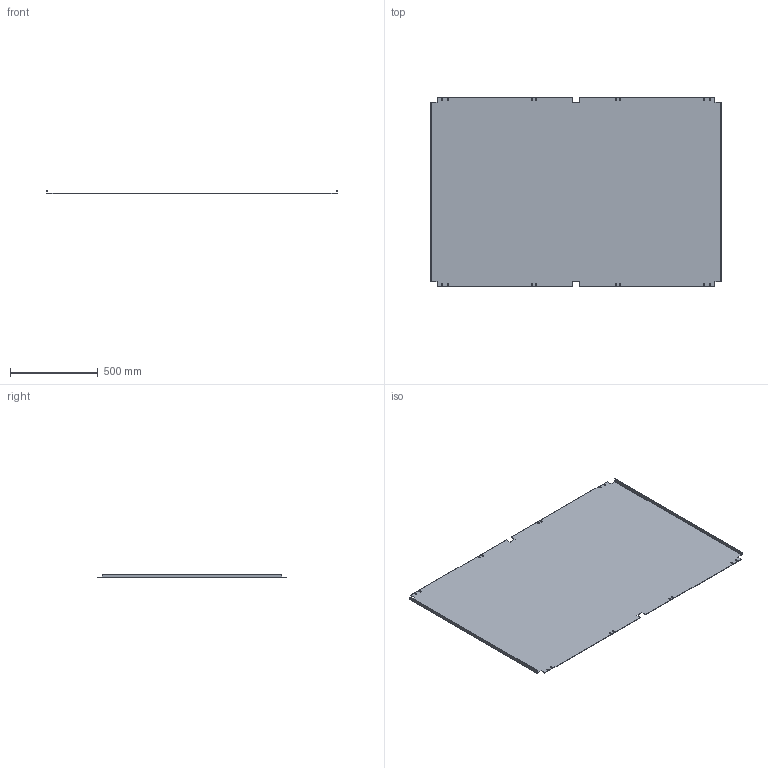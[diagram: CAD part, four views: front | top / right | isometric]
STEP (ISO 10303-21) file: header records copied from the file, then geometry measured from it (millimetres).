
FILE_DESCRIPTION(('Open CASCADE Model'),'2;1');
FILE_NAME('Open CASCADE Shape Model','2025-02-13T17:36:48',('Author'),( 'Open CASCADE'),'Open CASCADE STEP processor 7.8','Open CASCADE 7.8' ,'Unknown');
FILE_SCHEMA(('AUTOMOTIVE_DESIGN { 1 0 10303 214 1 1 1 1 }'));
Length unit declared in the file: millimetre
Products named in the file (1): Solid1
Bounding box: 1650 x 1080 x 20 mm (x, y, z)
Volume: 4520201.1 mm3; surface area: 3631717.6 mm2
Topology: 1 solids, 1 shells, 102 faces, 284 edges, 184 vertices
Faces by surface type: plane 66, cylinder 36
Entity records: 3326 total; most frequent: CARTESIAN_POINT 571, ORIENTED_EDGE 568, DIRECTION 562, EDGE_CURVE 284, LINE 212, VECTOR 212, VERTEX_POINT 184, AXIS2_PLACEMENT_3D 175
